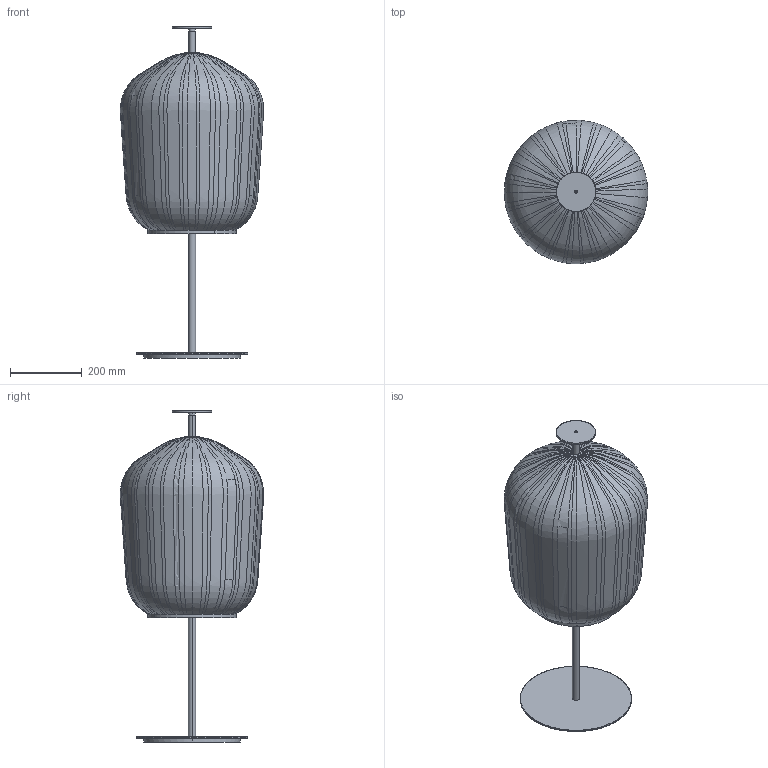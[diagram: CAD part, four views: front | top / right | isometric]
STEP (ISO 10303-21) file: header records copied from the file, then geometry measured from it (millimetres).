
FILE_DESCRIPTION(/* description */ (''),/* implementation_level */ '2;1');
FILE_NAME(/* name */ 'SH_Plissée-Floor-Lamp_3D_JS_20231113',/* time_stamp */ '2023-11-13T13:15:53+01:00',/* author */ (''),/* organization */ (''),/* preprocessor_version */ 'ST-DEVELOPER v16.5',/* originating_system */ 'Rhino 7.34',/* authorisation */ '');
FILE_SCHEMA (('CONFIG_CONTROL_DESIGN'));
Length unit declared in the file: millimetre
Products named in the file (1): Document
Bounding box: 399.58 x 399.3 x 924.66 mm (x, y, z)
Surface area: 897288.2 mm2 (no closed solid volume)
Topology: 0 solids, 3 shells, 135 faces, 359 edges, 221 vertices
Faces by surface type: bspline 101, cylinder 24, plane 10
Entity records: 33895 total; most frequent: CARTESIAN_POINT 31954, ORIENTED_EDGE 623, EDGE_CURVE 357, VERTEX_POINT 221, EDGE_LOOP 144, ADVANCED_FACE 135, FACE_OUTER_BOUND 135, B_SPLINE_CURVE_WITH_KNOTS 110
